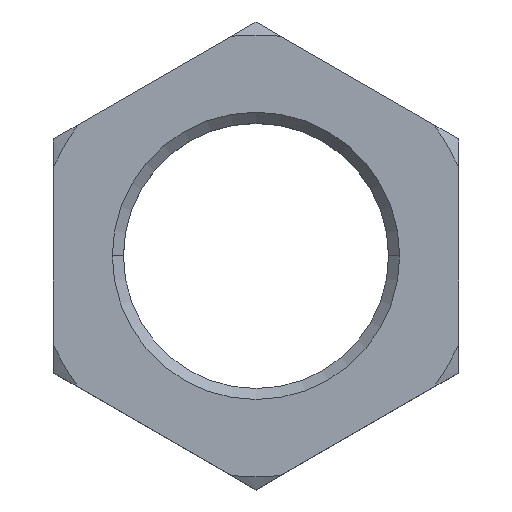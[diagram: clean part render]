
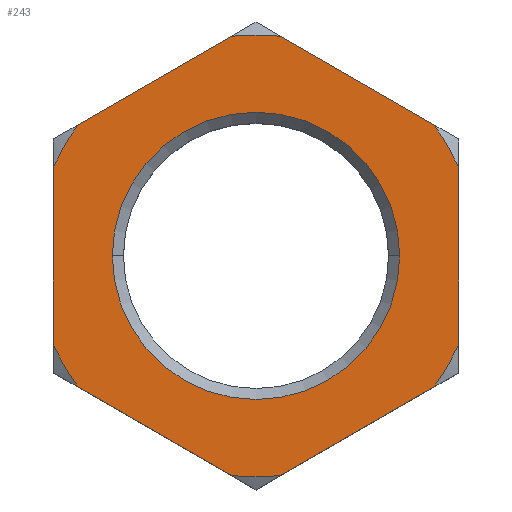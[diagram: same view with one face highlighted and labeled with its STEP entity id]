
A CAD part, top view. The second image highlights one B-rep face of the part: STEP entity #243.
In plain terms, the highlighted planar face has unit normal (0, 0, 1).
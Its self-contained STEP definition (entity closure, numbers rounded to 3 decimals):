
#3 = AXIS2_PLACEMENT_3D ( 'NONE', #822, #609, #659 ) ;
#6 = LINE ( 'NONE', #447, #394 ) ;
#7 = DIRECTION ( 'NONE',  ( -1., 0., 0. ) ) ;
#10 = EDGE_CURVE ( 'NONE', #252, #855, #827, .T. ) ;
#24 = VECTOR ( 'NONE', #391, 1000. ) ;
#33 = VERTEX_POINT ( 'NONE', #730 ) ;
#40 = CARTESIAN_POINT ( 'NONE',  ( 0., 0., 8.45 ) ) ;
#46 = CARTESIAN_POINT ( 'NONE',  ( 0., 0., 8.45 ) ) ;
#48 = DIRECTION ( 'NONE',  ( 0., 1., 0. ) ) ;
#54 = DIRECTION ( 'NONE',  ( 0., 0., -1. ) ) ;
#59 = VERTEX_POINT ( 'NONE', #109 ) ;
#64 = CARTESIAN_POINT ( 'NONE',  ( 0., 0., 8.45 ) ) ;
#67 = VERTEX_POINT ( 'NONE', #879 ) ;
#70 = CIRCLE ( 'NONE', #654, 30.004 ) ;
#72 = CARTESIAN_POINT ( 'NONE',  ( -27.5, -12., 8.45 ) ) ;
#74 = ORIENTED_EDGE ( 'NONE', *, *, #436, .T. ) ;
#77 = CARTESIAN_POINT ( 'NONE',  ( 3.357, -29.816, 8.45 ) ) ;
#79 = VECTOR ( 'NONE', #48, 1000. ) ;
#81 = VERTEX_POINT ( 'NONE', #899 ) ;
#82 = EDGE_CURVE ( 'NONE', #494, #922, #674, .T. ) ;
#84 = CARTESIAN_POINT ( 'NONE',  ( -19.5, 0., 8.45 ) ) ;
#89 = FACE_BOUND ( 'NONE', #325, .T. ) ;
#98 = CIRCLE ( 'NONE', #904, 30.004 ) ;
#104 = DIRECTION ( 'NONE',  ( 0., 0., -1. ) ) ;
#107 = VERTEX_POINT ( 'NONE', #754 ) ;
#109 = CARTESIAN_POINT ( 'NONE',  ( -27.5, 12., 8.45 ) ) ;
#114 = EDGE_CURVE ( 'NONE', #554, #81, #636, .T. ) ;
#117 = DIRECTION ( 'NONE',  ( 0., 0., 1. ) ) ;
#119 = PLANE ( 'NONE',  #132 ) ;
#123 = CARTESIAN_POINT ( 'NONE',  ( 19.5, 0., 8.45 ) ) ;
#124 = LINE ( 'NONE', #878, #523 ) ;
#127 = EDGE_LOOP ( 'NONE', ( #315, #568, #570, #810, #913, #877, #789, #686, #546, #792, #728, #481 ) ) ;
#132 = AXIS2_PLACEMENT_3D ( 'NONE', #895, #117, #818 ) ;
#145 = CIRCLE ( 'NONE', #591, 30.004 ) ;
#169 = CARTESIAN_POINT ( 'NONE',  ( 0., 0., 8.45 ) ) ;
#175 = EDGE_CURVE ( 'NONE', #554, #67, #70, .T. ) ;
#186 = CARTESIAN_POINT ( 'NONE',  ( 27.5, 15.877, 8.45 ) ) ;
#193 = AXIS2_PLACEMENT_3D ( 'NONE', #745, #605, #265 ) ;
#198 = VECTOR ( 'NONE', #229, 1000. ) ;
#214 = VERTEX_POINT ( 'NONE', #123 ) ;
#218 = AXIS2_PLACEMENT_3D ( 'NONE', #912, #54, #272 ) ;
#229 = DIRECTION ( 'NONE',  ( -0.866, -0.5, 0. ) ) ;
#239 = EDGE_CURVE ( 'NONE', #33, #922, #6, .T. ) ;
#243 = ADVANCED_FACE ( 'NONE', ( #89, #467 ), #119, .T. ) ;
#244 = EDGE_CURVE ( 'NONE', #107, #855, #280, .T. ) ;
#252 = VERTEX_POINT ( 'NONE', #395 ) ;
#259 = EDGE_CURVE ( 'NONE', #214, #637, #525, .T. ) ;
#265 = DIRECTION ( 'NONE',  ( 1., 0., 0. ) ) ;
#270 = DIRECTION ( 'NONE',  ( -1., 0., 0. ) ) ;
#272 = DIRECTION ( 'NONE',  ( 1., 0., 0. ) ) ;
#276 = EDGE_CURVE ( 'NONE', #107, #81, #98, .T. ) ;
#277 = CARTESIAN_POINT ( 'NONE',  ( 0., 31.754, 8.45 ) ) ;
#280 = LINE ( 'NONE', #186, #24 ) ;
#281 = CARTESIAN_POINT ( 'NONE',  ( 27.5, -12., 8.45 ) ) ;
#301 = LINE ( 'NONE', #277, #198 ) ;
#303 = CIRCLE ( 'NONE', #218, 19.5 ) ;
#315 = ORIENTED_EDGE ( 'NONE', *, *, #175, .F. ) ;
#321 = CARTESIAN_POINT ( 'NONE',  ( 27.5, -15.877, 8.45 ) ) ;
#325 = EDGE_LOOP ( 'NONE', ( #665, #74 ) ) ;
#382 = VERTEX_POINT ( 'NONE', #473 ) ;
#391 = DIRECTION ( 'NONE',  ( -0.866, 0.5, 0. ) ) ;
#393 = LINE ( 'NONE', #712, #696 ) ;
#394 = VECTOR ( 'NONE', #753, 1000. ) ;
#395 = CARTESIAN_POINT ( 'NONE',  ( -3.357, 29.816, 8.45 ) ) ;
#408 = EDGE_CURVE ( 'NONE', #33, #510, #145, .T. ) ;
#436 = EDGE_CURVE ( 'NONE', #637, #214, #303, .T. ) ;
#441 = EDGE_CURVE ( 'NONE', #59, #382, #501, .T. ) ;
#447 = CARTESIAN_POINT ( 'NONE',  ( -27.5, -15.877, 8.45 ) ) ;
#467 = FACE_OUTER_BOUND ( 'NONE', #127, .T. ) ;
#473 = CARTESIAN_POINT ( 'NONE',  ( -24.143, 17.816, 8.45 ) ) ;
#481 = ORIENTED_EDGE ( 'NONE', *, *, #781, .T. ) ;
#485 = DIRECTION ( 'NONE',  ( -1., 0., 0. ) ) ;
#494 = VERTEX_POINT ( 'NONE', #77 ) ;
#501 = CIRCLE ( 'NONE', #875, 30.004 ) ;
#507 = DIRECTION ( 'NONE',  ( 0., -1., 0. ) ) ;
#510 = VERTEX_POINT ( 'NONE', #72 ) ;
#515 = DIRECTION ( 'NONE',  ( -1., 0., 0. ) ) ;
#523 = VECTOR ( 'NONE', #661, 1000. ) ;
#525 = CIRCLE ( 'NONE', #193, 19.5 ) ;
#546 = ORIENTED_EDGE ( 'NONE', *, *, #408, .F. ) ;
#554 = VERTEX_POINT ( 'NONE', #281 ) ;
#568 = ORIENTED_EDGE ( 'NONE', *, *, #114, .T. ) ;
#570 = ORIENTED_EDGE ( 'NONE', *, *, #276, .F. ) ;
#591 = AXIS2_PLACEMENT_3D ( 'NONE', #920, #841, #270 ) ;
#592 = EDGE_CURVE ( 'NONE', #252, #382, #301, .T. ) ;
#599 = CARTESIAN_POINT ( 'NONE',  ( 3.357, 29.816, 8.45 ) ) ;
#602 = EDGE_CURVE ( 'NONE', #59, #510, #393, .T. ) ;
#605 = DIRECTION ( 'NONE',  ( 0., 0., -1. ) ) ;
#606 = DIRECTION ( 'NONE',  ( 0., 0., -1. ) ) ;
#609 = DIRECTION ( 'NONE',  ( 0., 0., -1. ) ) ;
#636 = LINE ( 'NONE', #321, #79 ) ;
#637 = VERTEX_POINT ( 'NONE', #84 ) ;
#640 = AXIS2_PLACEMENT_3D ( 'NONE', #169, #741, #515 ) ;
#654 = AXIS2_PLACEMENT_3D ( 'NONE', #40, #606, #485 ) ;
#659 = DIRECTION ( 'NONE',  ( -1., 0., 0. ) ) ;
#661 = DIRECTION ( 'NONE',  ( 0.866, 0.5, 0. ) ) ;
#665 = ORIENTED_EDGE ( 'NONE', *, *, #259, .T. ) ;
#674 = CIRCLE ( 'NONE', #3, 30.004 ) ;
#686 = ORIENTED_EDGE ( 'NONE', *, *, #602, .T. ) ;
#696 = VECTOR ( 'NONE', #507, 1000. ) ;
#706 = DIRECTION ( 'NONE',  ( 0., 0., -1. ) ) ;
#712 = CARTESIAN_POINT ( 'NONE',  ( -27.5, 15.877, 8.45 ) ) ;
#728 = ORIENTED_EDGE ( 'NONE', *, *, #82, .F. ) ;
#730 = CARTESIAN_POINT ( 'NONE',  ( -24.143, -17.816, 8.45 ) ) ;
#741 = DIRECTION ( 'NONE',  ( 0., 0., -1. ) ) ;
#745 = CARTESIAN_POINT ( 'NONE',  ( 0., 0., 8.45 ) ) ;
#753 = DIRECTION ( 'NONE',  ( 0.866, -0.5, 0. ) ) ;
#754 = CARTESIAN_POINT ( 'NONE',  ( 24.143, 17.816, 8.45 ) ) ;
#781 = EDGE_CURVE ( 'NONE', #494, #67, #124, .T. ) ;
#789 = ORIENTED_EDGE ( 'NONE', *, *, #441, .F. ) ;
#792 = ORIENTED_EDGE ( 'NONE', *, *, #239, .T. ) ;
#810 = ORIENTED_EDGE ( 'NONE', *, *, #244, .T. ) ;
#818 = DIRECTION ( 'NONE',  ( 1., 0., 0. ) ) ;
#822 = CARTESIAN_POINT ( 'NONE',  ( 0., 0., 8.45 ) ) ;
#827 = CIRCLE ( 'NONE', #640, 30.004 ) ;
#829 = DIRECTION ( 'NONE',  ( -1., 0., 0. ) ) ;
#841 = DIRECTION ( 'NONE',  ( 0., 0., -1. ) ) ;
#855 = VERTEX_POINT ( 'NONE', #599 ) ;
#875 = AXIS2_PLACEMENT_3D ( 'NONE', #64, #706, #7 ) ;
#877 = ORIENTED_EDGE ( 'NONE', *, *, #592, .T. ) ;
#878 = CARTESIAN_POINT ( 'NONE',  ( 0., -31.754, 8.45 ) ) ;
#879 = CARTESIAN_POINT ( 'NONE',  ( 24.143, -17.816, 8.45 ) ) ;
#895 = CARTESIAN_POINT ( 'NONE',  ( 0., 0., 8.45 ) ) ;
#899 = CARTESIAN_POINT ( 'NONE',  ( 27.5, 12., 8.45 ) ) ;
#901 = CARTESIAN_POINT ( 'NONE',  ( -3.357, -29.816, 8.45 ) ) ;
#904 = AXIS2_PLACEMENT_3D ( 'NONE', #46, #104, #829 ) ;
#912 = CARTESIAN_POINT ( 'NONE',  ( 0., 0., 8.45 ) ) ;
#913 = ORIENTED_EDGE ( 'NONE', *, *, #10, .F. ) ;
#920 = CARTESIAN_POINT ( 'NONE',  ( 0., 0., 8.45 ) ) ;
#922 = VERTEX_POINT ( 'NONE', #901 ) ;
